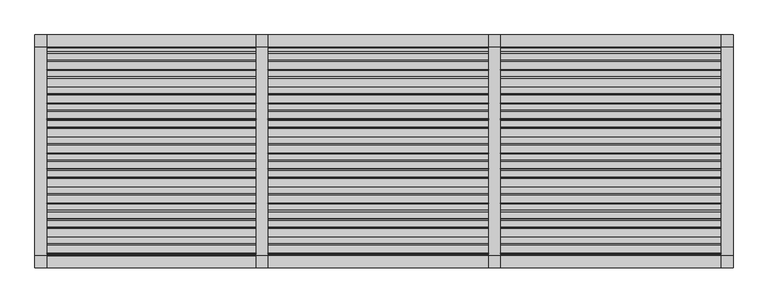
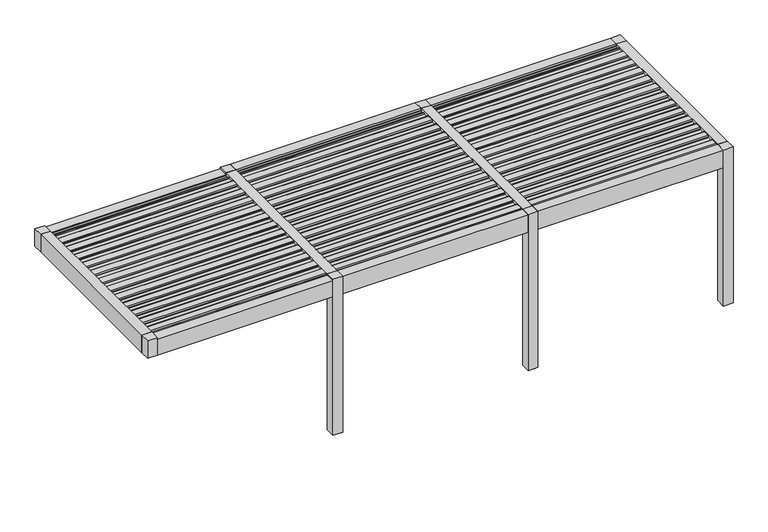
"""IFC4 building model written with IfcOpenShell, lengths in millimetres: proxy geometry, Renson_Amani_Patio_Cover : Renson_Amani_Patio_Cover."""

from ifc_helpers import new_model, si_unit, point, frame, frame_2d, origin, origin_with_axes, place, context, project, spatial, polyline, circle_curve, trimmed, segment, composite_curve, outline, extrude, source, transform, mapped, element, save


def generic_models_5a9e4830(model_context):
    return source(origin(), model_context, "Body", "SweptSolid", [
        extrude(outline(composite_curve([segment(polyline([(-1073.7289238, 2483.35), (-1076.1490335, 2511.01198), (-1104.984284, 2512.3970364), (-1101.5469529, 2531.8911096), (-991.549838, 2526.6075693)]), True, "CONTINUOUS"), segment(trimmed(circle_curve(frame_2d((-992.26951, 2511.6248435)), 15.0), [point((-991.549838, 2526.6075693))], [point((-977.4973937, 2514.2295662))], False, "CARTESIAN"), True, "CONTINUOUS"), segment(polyline([(-977.4973937, 2514.2295662), (-974.1067023, 2495.0), (-886.3709263, 2495.0), (-883.3594689, 2512.0788237), (-868.0824984, 2511.3450182), (-865.6332517, 2483.35), (-1073.7289238, 2483.35)]), True, "CONTINUOUS")], self_intersect=False)), frame((4500.0, 0.0, 0.0), z_axis=(1.0, 0.0, 0.0), x_axis=(0.0, 1.0, 0.0)), (0.0, 0.0, 1.0), 2850.0),
        extrude(outline(composite_curve([segment(polyline([(-858.7132078, 2483.35), (-861.1333174, 2511.01198), (-889.9685679, 2512.3970364), (-886.5312368, 2531.8911096), (-776.534122, 2526.6075693)]), True, "CONTINUOUS"), segment(trimmed(circle_curve(frame_2d((-777.2537939, 2511.6248435)), 15.0), [point((-776.534122, 2526.6075693))], [point((-762.4816776, 2514.2295662))], False, "CARTESIAN"), True, "CONTINUOUS"), segment(polyline([(-762.4816776, 2514.2295662), (-759.0909863, 2495.0), (-671.3552102, 2495.0), (-668.3437528, 2512.0788237), (-653.0667824, 2511.3450182), (-650.6175356, 2483.35), (-858.7132078, 2483.35)]), True, "CONTINUOUS")], self_intersect=False)), frame((4500.0, 0.0, 0.0), z_axis=(1.0, 0.0, 0.0), x_axis=(0.0, 1.0, 0.0)), (0.0, 0.0, 1.0), 2850.0),
        extrude(outline(composite_curve([segment(polyline([(-643.6974917, 2483.35), (-646.1176014, 2511.01198), (-674.9528519, 2512.3970364), (-671.5155208, 2531.8911096), (-561.5184059, 2526.6075693)]), True, "CONTINUOUS"), segment(trimmed(circle_curve(frame_2d((-562.2380779, 2511.6248435)), 15.0), [point((-561.5184059, 2526.6075693))], [point((-547.4659616, 2514.2295662))], False, "CARTESIAN"), True, "CONTINUOUS"), segment(polyline([(-547.4659616, 2514.2295662), (-544.0752702, 2495.0), (-456.3394942, 2495.0), (-453.3280368, 2512.0788237), (-438.0510663, 2511.3450182), (-435.6018196, 2483.35), (-643.6974917, 2483.35)]), True, "CONTINUOUS")], self_intersect=False)), frame((4500.0, 0.0, 0.0), z_axis=(1.0, 0.0, 0.0), x_axis=(0.0, 1.0, 0.0)), (0.0, 0.0, 1.0), 2850.0),
        extrude(outline(composite_curve([segment(polyline([(-428.6817757, 2483.35), (-431.1018854, 2511.01198), (-459.9371358, 2512.3970364), (-456.4998047, 2531.8911096), (-346.5026899, 2526.6075693)]), True, "CONTINUOUS"), segment(trimmed(circle_curve(frame_2d((-347.2223618, 2511.6248435)), 15.0), [point((-346.5026899, 2526.6075693))], [point((-332.4502455, 2514.2295662))], False, "CARTESIAN"), True, "CONTINUOUS"), segment(polyline([(-332.4502455, 2514.2295662), (-329.0595542, 2495.0), (-241.3237782, 2495.0), (-238.3123207, 2512.0788237), (-223.0353503, 2511.3450182), (-220.5861035, 2483.35), (-428.6817757, 2483.35)]), True, "CONTINUOUS")], self_intersect=False)), frame((4500.0, 0.0, 0.0), z_axis=(1.0, 0.0, 0.0), x_axis=(0.0, 1.0, 0.0)), (0.0, 0.0, 1.0), 2850.0),
        extrude(outline(composite_curve([segment(polyline([(-213.6660597, 2483.35), (-216.0861693, 2511.01198), (-244.9214198, 2512.3970364), (-241.4840887, 2531.8911096), (-131.4869738, 2526.6075693)]), True, "CONTINUOUS"), segment(trimmed(circle_curve(frame_2d((-132.2066458, 2511.6248435)), 15.0), [point((-131.4869738, 2526.6075693))], [point((-117.4345295, 2514.2295662))], False, "CARTESIAN"), True, "CONTINUOUS"), segment(polyline([(-117.4345295, 2514.2295662), (-114.0438381, 2495.0), (-26.3080621, 2495.0), (-23.2966047, 2512.0788237), (-8.0196342, 2511.3450182), (-5.5703875, 2483.35), (-213.6660597, 2483.35)]), True, "CONTINUOUS")], self_intersect=False)), frame((4500.0, 0.0, 0.0), z_axis=(1.0, 0.0, 0.0), x_axis=(0.0, 1.0, 0.0)), (0.0, 0.0, 1.0), 2850.0),
        extrude(outline(composite_curve([segment(polyline([(1.3496564, 2483.35), (-1.0704533, 2511.01198), (-29.9057037, 2512.3970364), (-26.4683726, 2531.8911096), (83.5287422, 2526.6075693)]), True, "CONTINUOUS"), segment(trimmed(circle_curve(frame_2d((82.8090703, 2511.6248435)), 15.0), [point((83.5287422, 2526.6075693))], [point((97.5811866, 2514.2295662))], False, "CARTESIAN"), True, "CONTINUOUS"), segment(polyline([(97.5811866, 2514.2295662), (100.9718779, 2495.0), (188.7076539, 2495.0), (191.7191114, 2512.0788237), (206.9960818, 2511.3450182), (209.4453286, 2483.35), (1.3496564, 2483.35)]), True, "CONTINUOUS")], self_intersect=False)), frame((4500.0, 0.0, 0.0), z_axis=(1.0, 0.0, 0.0), x_axis=(0.0, 1.0, 0.0)), (0.0, 0.0, 1.0), 2850.0),
        extrude(outline(composite_curve([segment(polyline([(216.3653724, 2483.35), (213.9452628, 2511.01198), (185.1100123, 2512.3970364), (188.5473434, 2531.8911096), (298.5444582, 2526.6075693)]), True, "CONTINUOUS"), segment(trimmed(circle_curve(frame_2d((297.8247863, 2511.6248435)), 15.0), [point((298.5444582, 2526.6075693))], [point((312.5969026, 2514.2295662))], False, "CARTESIAN"), True, "CONTINUOUS"), segment(polyline([(312.5969026, 2514.2295662), (315.987594, 2495.0), (403.72337, 2495.0), (406.7348274, 2512.0788237), (422.0117979, 2511.3450182), (424.4610446, 2483.35), (216.3653724, 2483.35)]), True, "CONTINUOUS")], self_intersect=False)), frame((4500.0, 0.0, 0.0), z_axis=(1.0, 0.0, 0.0), x_axis=(0.0, 1.0, 0.0)), (0.0, 0.0, 1.0), 2850.0),
        extrude(outline(composite_curve([segment(polyline([(431.3810885, 2483.35), (428.9609788, 2511.01198), (400.1257284, 2512.3970364), (403.5630594, 2531.8911096), (513.5601743, 2526.6075693)]), True, "CONTINUOUS"), segment(trimmed(circle_curve(frame_2d((512.8405024, 2511.6248435)), 15.0), [point((513.5601743, 2526.6075693))], [point((527.6126187, 2514.2295662))], False, "CARTESIAN"), True, "CONTINUOUS"), segment(polyline([(527.6126187, 2514.2295662), (531.00331, 2495.0), (618.739086, 2495.0), (621.7505434, 2512.0788237), (637.0275139, 2511.3450182), (639.4767606, 2483.35), (431.3810885, 2483.35)]), True, "CONTINUOUS")], self_intersect=False)), frame((4500.0, 0.0, 0.0), z_axis=(1.0, 0.0, 0.0), x_axis=(0.0, 1.0, 0.0)), (0.0, 0.0, 1.0), 2850.0),
        extrude(outline(composite_curve([segment(polyline([(646.3968045, 2483.35), (643.9766949, 2511.01198), (615.1414444, 2512.3970364), (618.5787755, 2531.8911096), (728.5758903, 2526.6075693)]), True, "CONTINUOUS"), segment(trimmed(circle_curve(frame_2d((727.8562184, 2511.6248435)), 15.0), [point((728.5758903, 2526.6075693))], [point((742.6283347, 2514.2295662))], False, "CARTESIAN"), True, "CONTINUOUS"), segment(polyline([(742.6283347, 2514.2295662), (746.019026, 2495.0), (833.7548021, 2495.0), (836.7662595, 2512.0788237), (852.04323, 2511.3450182), (854.4924767, 2483.35), (646.3968045, 2483.35)]), True, "CONTINUOUS")], self_intersect=False)), frame((4500.0, 0.0, 0.0), z_axis=(1.0, 0.0, 0.0), x_axis=(0.0, 1.0, 0.0)), (0.0, 0.0, 1.0), 2850.0),
        extrude(outline(composite_curve([segment(polyline([(861.4125206, 2483.35), (858.9924109, 2511.01198), (830.1571605, 2512.3970364), (833.5944915, 2531.8911096), (943.5916064, 2526.6075693)]), True, "CONTINUOUS"), segment(trimmed(circle_curve(frame_2d((942.8719345, 2511.6248435)), 15.0), [point((943.5916064, 2526.6075693))], [point((957.6440508, 2514.2295662))], False, "CARTESIAN"), True, "CONTINUOUS"), segment(polyline([(957.6440508, 2514.2295662), (961.0347421, 2495.0), (1048.7705181, 2495.0), (1051.7819755, 2512.0788237), (1067.058946, 2511.3450182), (1069.5081927, 2483.35), (861.4125206, 2483.35)]), True, "CONTINUOUS")], self_intersect=False)), frame((4500.0, 0.0, 0.0), z_axis=(1.0, 0.0, 0.0), x_axis=(0.0, 1.0, 0.0)), (0.0, 0.0, 1.0), 2850.0),
        extrude(outline(composite_curve([segment(polyline([(-1288.7446399, 2483.35), (-1291.1647495, 2511.01198), (-1320.0, 2512.3970364), (-1316.5626689, 2531.8911096), (-1206.5655541, 2526.6075693)]), True, "CONTINUOUS"), segment(trimmed(circle_curve(frame_2d((-1207.285226, 2511.6248435)), 15.0), [point((-1206.5655541, 2526.6075693))], [point((-1192.5131097, 2514.2295662))], False, "CARTESIAN"), True, "CONTINUOUS"), segment(polyline([(-1192.5131097, 2514.2295662), (-1189.1224184, 2495.0), (-1101.3866423, 2495.0), (-1098.3751849, 2512.0788237), (-1083.0982144, 2511.3450182), (-1080.6489677, 2483.35), (-1288.7446399, 2483.35)]), True, "CONTINUOUS")], self_intersect=False)), frame((4500.0, 0.0, 0.0), z_axis=(1.0, 0.0, 0.0), x_axis=(0.0, 1.0, 0.0)), (0.0, 0.0, 1.0), 2850.0),
        extrude(outline(composite_curve([segment(polyline([(1076.4282366, 2483.35), (1074.008127, 2511.01198), (1045.1728765, 2512.3970364), (1048.6102076, 2531.8911096), (1158.6073224, 2526.6075693)]), True, "CONTINUOUS"), segment(trimmed(circle_curve(frame_2d((1157.8876505, 2511.6248435)), 15.0), [point((1158.6073224, 2526.6075693))], [point((1172.6597668, 2514.2295662))], False, "CARTESIAN"), True, "CONTINUOUS"), segment(polyline([(1172.6597668, 2514.2295662), (1176.0504581, 2495.0), (1263.7862342, 2495.0), (1266.7976916, 2512.0788237), (1282.0746621, 2511.3450182), (1284.5239088, 2483.35), (1076.4282366, 2483.35)]), True, "CONTINUOUS")], self_intersect=False)), frame((4500.0, 0.0, 0.0), z_axis=(1.0, 0.0, 0.0), x_axis=(0.0, 1.0, 0.0)), (0.0, 0.0, 1.0), 2850.0),
        extrude(outline(composite_curve([segment(polyline([(-1073.7289238, 2483.35), (-1076.1490335, 2511.01198), (-1104.984284, 2512.3970364), (-1101.5469529, 2531.8911096), (-991.549838, 2526.6075693)]), True, "CONTINUOUS"), segment(trimmed(circle_curve(frame_2d((-992.26951, 2511.6248435)), 15.0), [point((-991.549838, 2526.6075693))], [point((-977.4973937, 2514.2295662))], False, "CARTESIAN"), True, "CONTINUOUS"), segment(polyline([(-977.4973937, 2514.2295662), (-974.1067023, 2495.0), (-886.3709263, 2495.0), (-883.3594689, 2512.0788237), (-868.0824984, 2511.3450182), (-865.6332517, 2483.35), (-1073.7289238, 2483.35)]), True, "CONTINUOUS")], self_intersect=False)), frame((1500.0, 0.0, 0.0), z_axis=(1.0, 0.0, 0.0), x_axis=(0.0, 1.0, 0.0)), (0.0, 0.0, 1.0), 2850.0),
        extrude(outline(composite_curve([segment(polyline([(-858.7132078, 2483.35), (-861.1333174, 2511.01198), (-889.9685679, 2512.3970364), (-886.5312368, 2531.8911096), (-776.534122, 2526.6075693)]), True, "CONTINUOUS"), segment(trimmed(circle_curve(frame_2d((-777.2537939, 2511.6248435)), 15.0), [point((-776.534122, 2526.6075693))], [point((-762.4816776, 2514.2295662))], False, "CARTESIAN"), True, "CONTINUOUS"), segment(polyline([(-762.4816776, 2514.2295662), (-759.0909863, 2495.0), (-671.3552102, 2495.0), (-668.3437528, 2512.0788237), (-653.0667824, 2511.3450182), (-650.6175356, 2483.35), (-858.7132078, 2483.35)]), True, "CONTINUOUS")], self_intersect=False)), frame((1500.0, 0.0, 0.0), z_axis=(1.0, 0.0, 0.0), x_axis=(0.0, 1.0, 0.0)), (0.0, 0.0, 1.0), 2850.0),
        extrude(outline(composite_curve([segment(polyline([(-643.6974917, 2483.35), (-646.1176014, 2511.01198), (-674.9528519, 2512.3970364), (-671.5155208, 2531.8911096), (-561.5184059, 2526.6075693)]), True, "CONTINUOUS"), segment(trimmed(circle_curve(frame_2d((-562.2380779, 2511.6248435)), 15.0), [point((-561.5184059, 2526.6075693))], [point((-547.4659616, 2514.2295662))], False, "CARTESIAN"), True, "CONTINUOUS"), segment(polyline([(-547.4659616, 2514.2295662), (-544.0752702, 2495.0), (-456.3394942, 2495.0), (-453.3280368, 2512.0788237), (-438.0510663, 2511.3450182), (-435.6018196, 2483.35), (-643.6974917, 2483.35)]), True, "CONTINUOUS")], self_intersect=False)), frame((1500.0, 0.0, 0.0), z_axis=(1.0, 0.0, 0.0), x_axis=(0.0, 1.0, 0.0)), (0.0, 0.0, 1.0), 2850.0),
        extrude(outline(composite_curve([segment(polyline([(-428.6817757, 2483.35), (-431.1018854, 2511.01198), (-459.9371358, 2512.3970364), (-456.4998047, 2531.8911096), (-346.5026899, 2526.6075693)]), True, "CONTINUOUS"), segment(trimmed(circle_curve(frame_2d((-347.2223618, 2511.6248435)), 15.0), [point((-346.5026899, 2526.6075693))], [point((-332.4502455, 2514.2295662))], False, "CARTESIAN"), True, "CONTINUOUS"), segment(polyline([(-332.4502455, 2514.2295662), (-329.0595542, 2495.0), (-241.3237782, 2495.0), (-238.3123207, 2512.0788237), (-223.0353503, 2511.3450182), (-220.5861035, 2483.35), (-428.6817757, 2483.35)]), True, "CONTINUOUS")], self_intersect=False)), frame((1500.0, 0.0, 0.0), z_axis=(1.0, 0.0, 0.0), x_axis=(0.0, 1.0, 0.0)), (0.0, 0.0, 1.0), 2850.0),
        extrude(outline(composite_curve([segment(polyline([(-213.6660597, 2483.35), (-216.0861693, 2511.01198), (-244.9214198, 2512.3970364), (-241.4840887, 2531.8911096), (-131.4869738, 2526.6075693)]), True, "CONTINUOUS"), segment(trimmed(circle_curve(frame_2d((-132.2066458, 2511.6248435)), 15.0), [point((-131.4869738, 2526.6075693))], [point((-117.4345295, 2514.2295662))], False, "CARTESIAN"), True, "CONTINUOUS"), segment(polyline([(-117.4345295, 2514.2295662), (-114.0438381, 2495.0), (-26.3080621, 2495.0), (-23.2966047, 2512.0788237), (-8.0196342, 2511.3450182), (-5.5703875, 2483.35), (-213.6660597, 2483.35)]), True, "CONTINUOUS")], self_intersect=False)), frame((1500.0, 0.0, 0.0), z_axis=(1.0, 0.0, 0.0), x_axis=(0.0, 1.0, 0.0)), (0.0, 0.0, 1.0), 2850.0),
        extrude(outline(composite_curve([segment(polyline([(1.3496564, 2483.35), (-1.0704533, 2511.01198), (-29.9057037, 2512.3970364), (-26.4683726, 2531.8911096), (83.5287422, 2526.6075693)]), True, "CONTINUOUS"), segment(trimmed(circle_curve(frame_2d((82.8090703, 2511.6248435)), 15.0), [point((83.5287422, 2526.6075693))], [point((97.5811866, 2514.2295662))], False, "CARTESIAN"), True, "CONTINUOUS"), segment(polyline([(97.5811866, 2514.2295662), (100.9718779, 2495.0), (188.7076539, 2495.0), (191.7191114, 2512.0788237), (206.9960818, 2511.3450182), (209.4453286, 2483.35), (1.3496564, 2483.35)]), True, "CONTINUOUS")], self_intersect=False)), frame((1500.0, 0.0, 0.0), z_axis=(1.0, 0.0, 0.0), x_axis=(0.0, 1.0, 0.0)), (0.0, 0.0, 1.0), 2850.0),
        extrude(outline(composite_curve([segment(polyline([(216.3653724, 2483.35), (213.9452628, 2511.01198), (185.1100123, 2512.3970364), (188.5473434, 2531.8911096), (298.5444582, 2526.6075693)]), True, "CONTINUOUS"), segment(trimmed(circle_curve(frame_2d((297.8247863, 2511.6248435)), 15.0), [point((298.5444582, 2526.6075693))], [point((312.5969026, 2514.2295662))], False, "CARTESIAN"), True, "CONTINUOUS"), segment(polyline([(312.5969026, 2514.2295662), (315.987594, 2495.0), (403.72337, 2495.0), (406.7348274, 2512.0788237), (422.0117979, 2511.3450182), (424.4610446, 2483.35), (216.3653724, 2483.35)]), True, "CONTINUOUS")], self_intersect=False)), frame((1500.0, 0.0, 0.0), z_axis=(1.0, 0.0, 0.0), x_axis=(0.0, 1.0, 0.0)), (0.0, 0.0, 1.0), 2850.0),
        extrude(outline(composite_curve([segment(polyline([(431.3810885, 2483.35), (428.9609788, 2511.01198), (400.1257284, 2512.3970364), (403.5630594, 2531.8911096), (513.5601743, 2526.6075693)]), True, "CONTINUOUS"), segment(trimmed(circle_curve(frame_2d((512.8405024, 2511.6248435)), 15.0), [point((513.5601743, 2526.6075693))], [point((527.6126187, 2514.2295662))], False, "CARTESIAN"), True, "CONTINUOUS"), segment(polyline([(527.6126187, 2514.2295662), (531.00331, 2495.0), (618.739086, 2495.0), (621.7505434, 2512.0788237), (637.0275139, 2511.3450182), (639.4767606, 2483.35), (431.3810885, 2483.35)]), True, "CONTINUOUS")], self_intersect=False)), frame((1500.0, 0.0, 0.0), z_axis=(1.0, 0.0, 0.0), x_axis=(0.0, 1.0, 0.0)), (0.0, 0.0, 1.0), 2850.0),
        extrude(outline(composite_curve([segment(polyline([(646.3968045, 2483.35), (643.9766949, 2511.01198), (615.1414444, 2512.3970364), (618.5787755, 2531.8911096), (728.5758903, 2526.6075693)]), True, "CONTINUOUS"), segment(trimmed(circle_curve(frame_2d((727.8562184, 2511.6248435)), 15.0), [point((728.5758903, 2526.6075693))], [point((742.6283347, 2514.2295662))], False, "CARTESIAN"), True, "CONTINUOUS"), segment(polyline([(742.6283347, 2514.2295662), (746.019026, 2495.0), (833.7548021, 2495.0), (836.7662595, 2512.0788237), (852.04323, 2511.3450182), (854.4924767, 2483.35), (646.3968045, 2483.35)]), True, "CONTINUOUS")], self_intersect=False)), frame((1500.0, 0.0, 0.0), z_axis=(1.0, 0.0, 0.0), x_axis=(0.0, 1.0, 0.0)), (0.0, 0.0, 1.0), 2850.0),
        extrude(outline(composite_curve([segment(polyline([(861.4125206, 2483.35), (858.9924109, 2511.01198), (830.1571605, 2512.3970364), (833.5944915, 2531.8911096), (943.5916064, 2526.6075693)]), True, "CONTINUOUS"), segment(trimmed(circle_curve(frame_2d((942.8719345, 2511.6248435)), 15.0), [point((943.5916064, 2526.6075693))], [point((957.6440508, 2514.2295662))], False, "CARTESIAN"), True, "CONTINUOUS"), segment(polyline([(957.6440508, 2514.2295662), (961.0347421, 2495.0), (1048.7705181, 2495.0), (1051.7819755, 2512.0788237), (1067.058946, 2511.3450182), (1069.5081927, 2483.35), (861.4125206, 2483.35)]), True, "CONTINUOUS")], self_intersect=False)), frame((1500.0, 0.0, 0.0), z_axis=(1.0, 0.0, 0.0), x_axis=(0.0, 1.0, 0.0)), (0.0, 0.0, 1.0), 2850.0),
        extrude(outline(composite_curve([segment(polyline([(-1288.7446399, 2483.35), (-1291.1647495, 2511.01198), (-1320.0, 2512.3970364), (-1316.5626689, 2531.8911096), (-1206.5655541, 2526.6075693)]), True, "CONTINUOUS"), segment(trimmed(circle_curve(frame_2d((-1207.285226, 2511.6248435)), 15.0), [point((-1206.5655541, 2526.6075693))], [point((-1192.5131097, 2514.2295662))], False, "CARTESIAN"), True, "CONTINUOUS"), segment(polyline([(-1192.5131097, 2514.2295662), (-1189.1224184, 2495.0), (-1101.3866423, 2495.0), (-1098.3751849, 2512.0788237), (-1083.0982144, 2511.3450182), (-1080.6489677, 2483.35), (-1288.7446399, 2483.35)]), True, "CONTINUOUS")], self_intersect=False)), frame((1500.0, 0.0, 0.0), z_axis=(1.0, 0.0, 0.0), x_axis=(0.0, 1.0, 0.0)), (0.0, 0.0, 1.0), 2850.0),
        extrude(outline(composite_curve([segment(polyline([(1076.4282366, 2483.35), (1074.008127, 2511.01198), (1045.1728765, 2512.3970364), (1048.6102076, 2531.8911096), (1158.6073224, 2526.6075693)]), True, "CONTINUOUS"), segment(trimmed(circle_curve(frame_2d((1157.8876505, 2511.6248435)), 15.0), [point((1158.6073224, 2526.6075693))], [point((1172.6597668, 2514.2295662))], False, "CARTESIAN"), True, "CONTINUOUS"), segment(polyline([(1172.6597668, 2514.2295662), (1176.0504581, 2495.0), (1263.7862342, 2495.0), (1266.7976916, 2512.0788237), (1282.0746621, 2511.3450182), (1284.5239088, 2483.35), (1076.4282366, 2483.35)]), True, "CONTINUOUS")], self_intersect=False)), frame((1500.0, 0.0, 0.0), z_axis=(1.0, 0.0, 0.0), x_axis=(0.0, 1.0, 0.0)), (0.0, 0.0, 1.0), 2850.0),
        extrude(outline(composite_curve([segment(polyline([(-1073.7289238, 2483.35), (-1076.1490335, 2511.01198), (-1104.984284, 2512.3970364), (-1101.5469529, 2531.8911096), (-991.549838, 2526.6075693)]), True, "CONTINUOUS"), segment(trimmed(circle_curve(frame_2d((-992.26951, 2511.6248435)), 15.0), [point((-991.549838, 2526.6075693))], [point((-977.4973937, 2514.2295662))], False, "CARTESIAN"), True, "CONTINUOUS"), segment(polyline([(-977.4973937, 2514.2295662), (-974.1067023, 2495.0), (-886.3709263, 2495.0), (-883.3594689, 2512.0788237), (-868.0824984, 2511.3450182), (-865.6332517, 2483.35), (-1073.7289238, 2483.35)]), True, "CONTINUOUS")], self_intersect=False)), frame((-1350.0, 0.0, 0.0), z_axis=(1.0, 0.0, 0.0), x_axis=(0.0, 1.0, 0.0)), (0.0, 0.0, 1.0), 2700.0),
        extrude(outline(composite_curve([segment(polyline([(-858.7132078, 2483.35), (-861.1333174, 2511.01198), (-889.9685679, 2512.3970364), (-886.5312368, 2531.8911096), (-776.534122, 2526.6075693)]), True, "CONTINUOUS"), segment(trimmed(circle_curve(frame_2d((-777.2537939, 2511.6248435)), 15.0), [point((-776.534122, 2526.6075693))], [point((-762.4816776, 2514.2295662))], False, "CARTESIAN"), True, "CONTINUOUS"), segment(polyline([(-762.4816776, 2514.2295662), (-759.0909863, 2495.0), (-671.3552102, 2495.0), (-668.3437528, 2512.0788237), (-653.0667824, 2511.3450182), (-650.6175356, 2483.35), (-858.7132078, 2483.35)]), True, "CONTINUOUS")], self_intersect=False)), frame((-1350.0, 0.0, 0.0), z_axis=(1.0, 0.0, 0.0), x_axis=(0.0, 1.0, 0.0)), (0.0, 0.0, 1.0), 2700.0),
        extrude(outline(composite_curve([segment(polyline([(-643.6974917, 2483.35), (-646.1176014, 2511.01198), (-674.9528519, 2512.3970364), (-671.5155208, 2531.8911096), (-561.5184059, 2526.6075693)]), True, "CONTINUOUS"), segment(trimmed(circle_curve(frame_2d((-562.2380779, 2511.6248435)), 15.0), [point((-561.5184059, 2526.6075693))], [point((-547.4659616, 2514.2295662))], False, "CARTESIAN"), True, "CONTINUOUS"), segment(polyline([(-547.4659616, 2514.2295662), (-544.0752702, 2495.0), (-456.3394942, 2495.0), (-453.3280368, 2512.0788237), (-438.0510663, 2511.3450182), (-435.6018196, 2483.35), (-643.6974917, 2483.35)]), True, "CONTINUOUS")], self_intersect=False)), frame((-1350.0, 0.0, 0.0), z_axis=(1.0, 0.0, 0.0), x_axis=(0.0, 1.0, 0.0)), (0.0, 0.0, 1.0), 2700.0),
        extrude(outline(composite_curve([segment(polyline([(-428.6817757, 2483.35), (-431.1018854, 2511.01198), (-459.9371358, 2512.3970364), (-456.4998047, 2531.8911096), (-346.5026899, 2526.6075693)]), True, "CONTINUOUS"), segment(trimmed(circle_curve(frame_2d((-347.2223618, 2511.6248435)), 15.0), [point((-346.5026899, 2526.6075693))], [point((-332.4502455, 2514.2295662))], False, "CARTESIAN"), True, "CONTINUOUS"), segment(polyline([(-332.4502455, 2514.2295662), (-329.0595542, 2495.0), (-241.3237782, 2495.0), (-238.3123207, 2512.0788237), (-223.0353503, 2511.3450182), (-220.5861035, 2483.35), (-428.6817757, 2483.35)]), True, "CONTINUOUS")], self_intersect=False)), frame((-1350.0, 0.0, 0.0), z_axis=(1.0, 0.0, 0.0), x_axis=(0.0, 1.0, 0.0)), (0.0, 0.0, 1.0), 2700.0),
        extrude(outline(composite_curve([segment(polyline([(-213.6660597, 2483.35), (-216.0861693, 2511.01198), (-244.9214198, 2512.3970364), (-241.4840887, 2531.8911096), (-131.4869738, 2526.6075693)]), True, "CONTINUOUS"), segment(trimmed(circle_curve(frame_2d((-132.2066458, 2511.6248435)), 15.0), [point((-131.4869738, 2526.6075693))], [point((-117.4345295, 2514.2295662))], False, "CARTESIAN"), True, "CONTINUOUS"), segment(polyline([(-117.4345295, 2514.2295662), (-114.0438381, 2495.0), (-26.3080621, 2495.0), (-23.2966047, 2512.0788237), (-8.0196342, 2511.3450182), (-5.5703875, 2483.35), (-213.6660597, 2483.35)]), True, "CONTINUOUS")], self_intersect=False)), frame((-1350.0, 0.0, 0.0), z_axis=(1.0, 0.0, 0.0), x_axis=(0.0, 1.0, 0.0)), (0.0, 0.0, 1.0), 2700.0),
        extrude(outline(composite_curve([segment(polyline([(1.3496564, 2483.35), (-1.0704533, 2511.01198), (-29.9057037, 2512.3970364), (-26.4683726, 2531.8911096), (83.5287422, 2526.6075693)]), True, "CONTINUOUS"), segment(trimmed(circle_curve(frame_2d((82.8090703, 2511.6248435)), 15.0), [point((83.5287422, 2526.6075693))], [point((97.5811866, 2514.2295662))], False, "CARTESIAN"), True, "CONTINUOUS"), segment(polyline([(97.5811866, 2514.2295662), (100.9718779, 2495.0), (188.7076539, 2495.0), (191.7191114, 2512.0788237), (206.9960818, 2511.3450182), (209.4453286, 2483.35), (1.3496564, 2483.35)]), True, "CONTINUOUS")], self_intersect=False)), frame((-1350.0, 0.0, 0.0), z_axis=(1.0, 0.0, 0.0), x_axis=(0.0, 1.0, 0.0)), (0.0, 0.0, 1.0), 2700.0),
        extrude(outline(composite_curve([segment(polyline([(216.3653724, 2483.35), (213.9452628, 2511.01198), (185.1100123, 2512.3970364), (188.5473434, 2531.8911096), (298.5444582, 2526.6075693)]), True, "CONTINUOUS"), segment(trimmed(circle_curve(frame_2d((297.8247863, 2511.6248435)), 15.0), [point((298.5444582, 2526.6075693))], [point((312.5969026, 2514.2295662))], False, "CARTESIAN"), True, "CONTINUOUS"), segment(polyline([(312.5969026, 2514.2295662), (315.987594, 2495.0), (403.72337, 2495.0), (406.7348274, 2512.0788237), (422.0117979, 2511.3450182), (424.4610446, 2483.35), (216.3653724, 2483.35)]), True, "CONTINUOUS")], self_intersect=False)), frame((-1350.0, 0.0, 0.0), z_axis=(1.0, 0.0, 0.0), x_axis=(0.0, 1.0, 0.0)), (0.0, 0.0, 1.0), 2700.0),
        extrude(outline(composite_curve([segment(polyline([(431.3810885, 2483.35), (428.9609788, 2511.01198), (400.1257284, 2512.3970364), (403.5630594, 2531.8911096), (513.5601743, 2526.6075693)]), True, "CONTINUOUS"), segment(trimmed(circle_curve(frame_2d((512.8405024, 2511.6248435)), 15.0), [point((513.5601743, 2526.6075693))], [point((527.6126187, 2514.2295662))], False, "CARTESIAN"), True, "CONTINUOUS"), segment(polyline([(527.6126187, 2514.2295662), (531.00331, 2495.0), (618.739086, 2495.0), (621.7505434, 2512.0788237), (637.0275139, 2511.3450182), (639.4767606, 2483.35), (431.3810885, 2483.35)]), True, "CONTINUOUS")], self_intersect=False)), frame((-1350.0, 0.0, 0.0), z_axis=(1.0, 0.0, 0.0), x_axis=(0.0, 1.0, 0.0)), (0.0, 0.0, 1.0), 2700.0),
        extrude(outline(composite_curve([segment(polyline([(646.3968045, 2483.35), (643.9766949, 2511.01198), (615.1414444, 2512.3970364), (618.5787755, 2531.8911096), (728.5758903, 2526.6075693)]), True, "CONTINUOUS"), segment(trimmed(circle_curve(frame_2d((727.8562184, 2511.6248435)), 15.0), [point((728.5758903, 2526.6075693))], [point((742.6283347, 2514.2295662))], False, "CARTESIAN"), True, "CONTINUOUS"), segment(polyline([(742.6283347, 2514.2295662), (746.019026, 2495.0), (833.7548021, 2495.0), (836.7662595, 2512.0788237), (852.04323, 2511.3450182), (854.4924767, 2483.35), (646.3968045, 2483.35)]), True, "CONTINUOUS")], self_intersect=False)), frame((-1350.0, 0.0, 0.0), z_axis=(1.0, 0.0, 0.0), x_axis=(0.0, 1.0, 0.0)), (0.0, 0.0, 1.0), 2700.0),
        extrude(outline(composite_curve([segment(polyline([(861.4125206, 2483.35), (858.9924109, 2511.01198), (830.1571605, 2512.3970364), (833.5944915, 2531.8911096), (943.5916064, 2526.6075693)]), True, "CONTINUOUS"), segment(trimmed(circle_curve(frame_2d((942.8719345, 2511.6248435)), 15.0), [point((943.5916064, 2526.6075693))], [point((957.6440508, 2514.2295662))], False, "CARTESIAN"), True, "CONTINUOUS"), segment(polyline([(957.6440508, 2514.2295662), (961.0347421, 2495.0), (1048.7705181, 2495.0), (1051.7819755, 2512.0788237), (1067.058946, 2511.3450182), (1069.5081927, 2483.35), (861.4125206, 2483.35)]), True, "CONTINUOUS")], self_intersect=False)), frame((-1350.0, 0.0, 0.0), z_axis=(1.0, 0.0, 0.0), x_axis=(0.0, 1.0, 0.0)), (0.0, 0.0, 1.0), 2700.0),
        extrude(outline(composite_curve([segment(polyline([(-1288.7446399, 2483.35), (-1291.1647495, 2511.01198), (-1320.0, 2512.3970364), (-1316.5626689, 2531.8911096), (-1206.5655541, 2526.6075693)]), True, "CONTINUOUS"), segment(trimmed(circle_curve(frame_2d((-1207.285226, 2511.6248435)), 15.0), [point((-1206.5655541, 2526.6075693))], [point((-1192.5131097, 2514.2295662))], False, "CARTESIAN"), True, "CONTINUOUS"), segment(polyline([(-1192.5131097, 2514.2295662), (-1189.1224184, 2495.0), (-1101.3866423, 2495.0), (-1098.3751849, 2512.0788237), (-1083.0982144, 2511.3450182), (-1080.6489677, 2483.35), (-1288.7446399, 2483.35)]), True, "CONTINUOUS")], self_intersect=False)), frame((-1350.0, 0.0, 0.0), z_axis=(1.0, 0.0, 0.0), x_axis=(0.0, 1.0, 0.0)), (0.0, 0.0, 1.0), 2700.0),
        extrude(outline(composite_curve([segment(polyline([(1076.4282366, 2483.35), (1074.008127, 2511.01198), (1045.1728765, 2512.3970364), (1048.6102076, 2531.8911096), (1158.6073224, 2526.6075693)]), True, "CONTINUOUS"), segment(trimmed(circle_curve(frame_2d((1157.8876505, 2511.6248435)), 15.0), [point((1158.6073224, 2526.6075693))], [point((1172.6597668, 2514.2295662))], False, "CARTESIAN"), True, "CONTINUOUS"), segment(polyline([(1172.6597668, 2514.2295662), (1176.0504581, 2495.0), (1263.7862342, 2495.0), (1266.7976916, 2512.0788237), (1282.0746621, 2511.3450182), (1284.5239088, 2483.35), (1076.4282366, 2483.35)]), True, "CONTINUOUS")], self_intersect=False)), frame((-1350.0, 0.0, 0.0), z_axis=(1.0, 0.0, 0.0), x_axis=(0.0, 1.0, 0.0)), (0.0, 0.0, 1.0), 2700.0),
        extrude(outline(polyline([(7500.0, -1350.0), (7500.0, -1500.0), (7350.0, -1500.0), (7350.0, -1350.0), (7500.0, -1350.0)])), origin_with_axes(), (0.0, 0.0, 1.0), 2535.0),
        extrude(outline(polyline([(7500.0, 1500.0), (7500.0, 1350.0), (7350.0, 1350.0), (7350.0, 1500.0), (7500.0, 1500.0)])), frame((0.0, 0.0, 2250.0), z_axis=(0.0, 0.0, 1.0), x_axis=(1.0, 0.0, 0.0)), (0.0, 0.0, 1.0), 285.0),
        extrude(outline(polyline([(4500.0, 1350.0), (4350.0, 1350.0), (4350.0, 1500.0), (4500.0, 1500.0), (4500.0, 1350.0)])), frame((0.0, 0.0, 2250.0), z_axis=(0.0, 0.0, 1.0), x_axis=(1.0, 0.0, 0.0)), (0.0, 0.0, 1.0), 285.0),
        extrude(outline(polyline([(1500.0, 1500.0), (1500.0, 1350.0), (1350.0, 1350.0), (1350.0, 1500.0), (1500.0, 1500.0)])), frame((0.0, 0.0, 2250.0), z_axis=(0.0, 0.0, 1.0), x_axis=(1.0, 0.0, 0.0)), (0.0, 0.0, 1.0), 285.0),
        extrude(outline(polyline([(-1350.0, 1500.0), (-1350.0, 1350.0), (-1500.0, 1350.0), (-1500.0, 1500.0), (-1350.0, 1500.0)])), frame((0.0, 0.0, 2250.0), z_axis=(0.0, 0.0, 1.0), x_axis=(1.0, 0.0, 0.0)), (0.0, 0.0, 1.0), 285.0),
        extrude(outline(polyline([(-1350.0, -1500.0), (-1500.0, -1500.0), (-1500.0, -1350.0), (-1350.0, -1350.0), (-1350.0, -1500.0)])), frame((0.0, 0.0, 2250.0), z_axis=(0.0, 0.0, 1.0), x_axis=(1.0, 0.0, 0.0)), (0.0, 0.0, 1.0), 285.0),
        extrude(outline(polyline([(4500.0, -1350.0), (4500.0, -1500.0), (4350.0, -1500.0), (4350.0, -1350.0), (4500.0, -1350.0)])), origin_with_axes(), (0.0, 0.0, 1.0), 2535.0),
        extrude(outline(polyline([(1500.0, -1350.0), (1500.0, -1500.0), (1350.0, -1500.0), (1350.0, -1350.0), (1500.0, -1350.0)])), origin_with_axes(), (0.0, 0.0, 1.0), 2535.0),
        extrude(outline(polyline([(1350.0, 2466.6559373), (1290.0, 2466.6559373), (1286.2487113, 2480.6555802), (1329.5940945, 2480.6555802), (1345.0, 2496.400763), (1345.0, 2504.2449277), (1350.0, 2504.6823598), (1350.0, 2466.6559373)])), frame((4500.0, 0.0, 0.0), z_axis=(1.0, 0.0, 0.0), x_axis=(0.0, 1.0, 0.0)), (0.0, 0.0, 1.0), 2850.0),
        extrude(outline(polyline([(-1350.0, 2504.6823598), (-1345.0, 2504.2449277), (-1345.0, 2496.400763), (-1329.2544156, 2480.6555802), (-1319.9090324, 2480.6555802), (-1323.6603211, 2466.6559373), (-1350.0, 2466.6559373), (-1350.0, 2250.0), (-1500.0, 2250.0), (-1500.0, 2535.0), (-1350.0, 2535.0), (-1350.0, 2504.6823598)])), frame((4500.0, 0.0, 0.0), z_axis=(1.0, 0.0, 0.0), x_axis=(0.0, 1.0, 0.0)), (0.0, 0.0, 1.0), 2850.0),
        extrude(outline(polyline([(7350.0, 1500.0), (7350.0, 1350.0), (4500.0, 1350.0), (4500.0, 1500.0), (7350.0, 1500.0)])), frame((0.0, 0.0, 2250.0), z_axis=(0.0, 0.0, 1.0), x_axis=(1.0, 0.0, 0.0)), (0.0, 0.0, 1.0), 285.0),
        extrude(outline(polyline([(2535.0, 4350.0), (2322.0, 4350.0), (2322.0, 4280.0000001), (2250.0, 4280.0000001), (2250.0, 4569.9999999), (2322.0, 4569.9999999), (2322.0, 4500.0), (2535.0, 4500.0), (2535.0, 4350.0)])), frame((0.0, -1350.0, 0.0), z_axis=(0.0, 1.0, 0.0), x_axis=(0.0, 0.0, 1.0)), (0.0, 0.0, 1.0), 2700.0),
        extrude(outline(polyline([(2535.0, 7350.0), (2322.0, 7350.0), (2322.0, 7280.0000001), (2250.0, 7280.0000001), (2250.0, 7500.0), (2535.0, 7500.0), (2535.0, 7350.0)])), frame((0.0, -1350.0, 0.0), z_axis=(0.0, 1.0, 0.0), x_axis=(0.0, 0.0, 1.0)), (0.0, 0.0, 1.0), 2700.0),
        extrude(outline(polyline([(1350.0, 2466.6559373), (1290.0, 2466.6559373), (1286.2487113, 2480.6555802), (1329.5940945, 2480.6555802), (1345.0, 2496.400763), (1345.0, 2504.2449277), (1350.0, 2504.6823598), (1350.0, 2466.6559373)])), frame((1500.0, 0.0, 0.0), z_axis=(1.0, 0.0, 0.0), x_axis=(0.0, 1.0, 0.0)), (0.0, 0.0, 1.0), 2850.0),
        extrude(outline(polyline([(4350.0, 1500.0), (4350.0, 1350.0), (1500.0, 1350.0), (1500.0, 1500.0), (4350.0, 1500.0)])), frame((0.0, 0.0, 2250.0), z_axis=(0.0, 0.0, 1.0), x_axis=(1.0, 0.0, 0.0)), (0.0, 0.0, 1.0), 285.0),
        extrude(outline(polyline([(-1350.0, 2250.0), (-1500.0, 2250.0), (-1500.0, 2535.0), (-1350.0, 2535.0), (-1350.0, 2504.6823598), (-1345.0, 2504.2449277), (-1345.0, 2496.400763), (-1329.2544156, 2480.6555802), (-1319.9090324, 2480.6555802), (-1323.6603211, 2466.6559373), (-1350.0, 2466.6559373), (-1350.0, 2250.0)])), frame((1500.0, 0.0, 0.0), z_axis=(1.0, 0.0, 0.0), x_axis=(0.0, 1.0, 0.0)), (0.0, 0.0, 1.0), 2850.0),
        extrude(outline(polyline([(2535.0, 1350.0), (2322.0, 1350.0), (2322.0, 1280.0000001), (2250.0, 1280.0000001), (2250.0, 1569.9999999), (2322.0, 1569.9999999), (2322.0, 1500.0), (2535.0, 1500.0), (2535.0, 1350.0)])), frame((0.0, -1350.0, 0.0), z_axis=(0.0, 1.0, 0.0), x_axis=(0.0, 0.0, 1.0)), (0.0, 0.0, 1.0), 2700.0),
        extrude(outline(polyline([(2535.0, 4350.0), (2322.0, 4350.0), (2322.0, 4280.0000001), (2250.0, 4280.0000001), (2250.0, 4500.0), (2535.0, 4500.0), (2535.0, 4350.0)])), frame((0.0, -1350.0, 0.0), z_axis=(0.0, 1.0, 0.0), x_axis=(0.0, 0.0, 1.0)), (0.0, 0.0, 1.0), 2700.0),
        extrude(outline(polyline([(1350.0, 2466.6559373), (1290.0, 2466.6559373), (1286.2487113, 2480.6555802), (1329.5940945, 2480.6555802), (1345.0, 2496.400763), (1345.0, 2504.2449277), (1350.0, 2504.6823598), (1350.0, 2466.6559373)])), frame((-1350.0, 0.0, 0.0), z_axis=(1.0, 0.0, 0.0), x_axis=(0.0, 1.0, 0.0)), (0.0, 0.0, 1.0), 2700.0),
        extrude(outline(polyline([(-1350.0, 2510.0), (-1350.0, 2479.6823598), (-1345.0, 2479.2449277), (-1345.0, 2471.400763), (-1329.2544156, 2455.6555802), (-1319.9090324, 2455.6555802), (-1323.6603211, 2441.6559373), (-1350.0, 2441.6559373), (-1350.0, 2250.0), (-1500.0, 2250.0), (-1500.0, 2510.0), (-1350.0, 2510.0)])), frame((-1350.0, 0.0, 0.0), z_axis=(1.0, 0.0, 0.0), x_axis=(0.0, 1.0, 0.0)), (0.0, 0.0, 1.0), 2700.0),
        extrude(outline(polyline([(1350.0, 1500.0), (1350.0, 1350.0), (-1350.0, 1350.0), (-1350.0, 1500.0), (1350.0, 1500.0)])), frame((0.0, 0.0, 2250.0), z_axis=(0.0, 0.0, 1.0), x_axis=(1.0, 0.0, 0.0)), (0.0, 0.0, 1.0), 260.0),
        extrude(outline(polyline([(2535.0, -1350.0), (2535.0, -1500.0), (2250.0, -1500.0), (2250.0, -1280.0000001), (2322.0, -1280.0000001), (2322.0, -1350.0), (2535.0, -1350.0)])), frame((0.0, -1350.0, 0.0), z_axis=(0.0, 1.0, 0.0), x_axis=(0.0, 0.0, 1.0)), (0.0, 0.0, 1.0), 2700.0),
        extrude(outline(polyline([(2250.0, 1500.0), (2535.0, 1500.0), (2535.0, 1350.0), (2322.0, 1350.0), (2322.0, 1280.0000001), (2250.0, 1280.0000001), (2250.0, 1500.0)])), frame((0.0, -1350.0, 0.0), z_axis=(0.0, 1.0, 0.0), x_axis=(0.0, 0.0, 1.0)), (0.0, 0.0, 1.0), 2700.0),
    ])


if __name__ == "__main__":
    model = new_model("IFC4")
    model_context = context("Model", 3, world=origin())
    ifc_project = project(units=[si_unit("LENGTHUNIT", "METRE", prefix="MILLI")], contexts=[model_context])
    site = spatial("IfcSite", under=ifc_project)
    building = spatial("IfcBuilding", under=site)
    placement = place(None, origin())
    generic_models_shape = generic_models_5a9e4830(model_context)
    element("IfcBuildingElementProxy", 1, Name="Renson_Amani_Patio_Cover : Renson_Amani_Patio_Cover", ObjectType="Renson_Amani_Patio_Cover : Renson_Amani_Patio_Cover", at=placement, inside=building, context=model_context, shape_type="MappedRepresentation", body=[
        mapped(generic_models_shape, transform((0.0, 0.0, 0.0), x_axis=(1.0, 0.0, 0.0), y_axis=(0.0, 1.0, 0.0), z_axis=(0.0, 0.0, 1.0))),
    ])
    save(model, "model.ifc")
